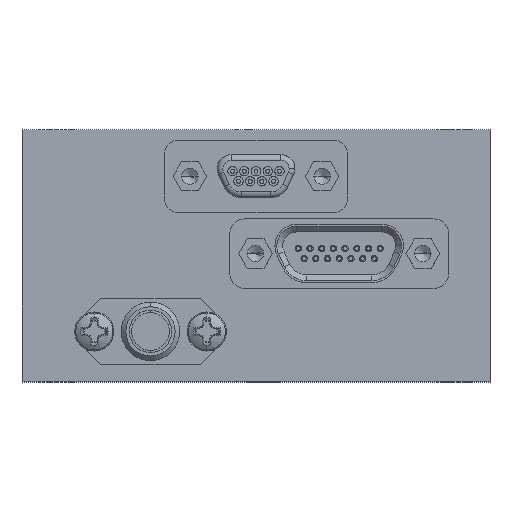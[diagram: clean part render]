
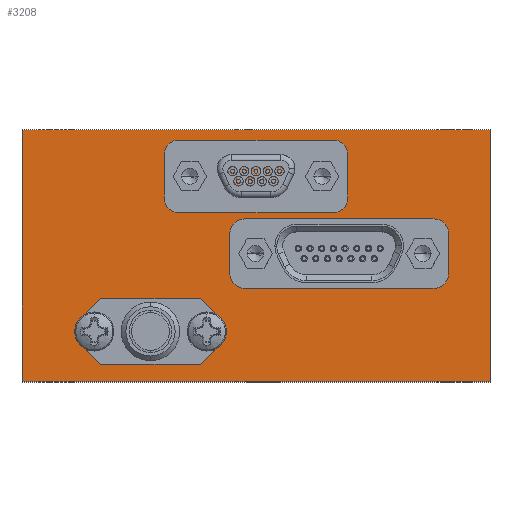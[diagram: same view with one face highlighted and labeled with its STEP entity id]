
A CAD part, top view. The second image highlights one B-rep face of the part: STEP entity #3208.
In plain terms, the highlighted planar face has unit normal (0, 0, 1).
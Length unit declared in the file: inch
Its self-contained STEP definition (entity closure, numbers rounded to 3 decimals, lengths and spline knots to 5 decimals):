
#7 = EDGE_LOOP ( 'NONE', ( #41210, #12051 ) ) ;
#163 = AXIS2_PLACEMENT_3D ( 'NONE', #24295, #26897, #39761 ) ;
#209 = AXIS2_PLACEMENT_3D ( 'NONE', #7731, #21181, #24347 ) ;
#387 = DIRECTION ( 'NONE',  ( 0., -1., 0. ) ) ;
#793 = FACE_BOUND ( 'NONE', #37071, .T. ) ;
#1322 = ORIENTED_EDGE ( 'NONE', *, *, #5940, .F. ) ;
#1712 = CARTESIAN_POINT ( 'NONE',  ( 0.99819, 0.54495, 0. ) ) ;
#1945 = CARTESIAN_POINT ( 'NONE',  ( 0.7175, 0.875, 0. ) ) ;
#2969 = LINE ( 'NONE', #22511, #15176 ) ;
#3208 = ADVANCED_FACE ( 'NONE', ( #10711, #793, #13642, #26694, #5341, #37410 ), #7105, .F. ) ;
#3358 = CIRCLE ( 'NONE', #22139, 0.01625 ) ;
#3431 = ORIENTED_EDGE ( 'NONE', *, *, #21184, .F. ) ;
#3465 = ORIENTED_EDGE ( 'NONE', *, *, #22410, .F. ) ;
#4380 = AXIS2_PLACEMENT_3D ( 'NONE', #10506, #22888, #13644 ) ;
#5341 = FACE_BOUND ( 'NONE', #5955, .T. ) ;
#5447 = DIRECTION ( 'NONE',  ( 1., 0., 0. ) ) ;
#5876 = DIRECTION ( 'NONE',  ( 0., -1., 0. ) ) ;
#5940 = EDGE_CURVE ( 'NONE', #23323, #17807, #24182, .T. ) ;
#5955 = EDGE_LOOP ( 'NONE', ( #33423, #26280 ) ) ;
#6048 = CARTESIAN_POINT ( 'NONE',  ( 2., 0., 0. ) ) ;
#6923 = CIRCLE ( 'NONE', #209, 0.01625 ) ;
#7105 = PLANE ( 'NONE',  #163 ) ;
#7174 = DIRECTION ( 'NONE',  ( 0., 0., 1. ) ) ;
#7220 = CARTESIAN_POINT ( 'NONE',  ( 0.549, 0.19595, 0. ) ) ;
#7685 = CARTESIAN_POINT ( 'NONE',  ( 1.71319, 0.54495, 0. ) ) ;
#7731 = CARTESIAN_POINT ( 'NONE',  ( 1.71319, 0.54495, 0. ) ) ;
#7772 = CARTESIAN_POINT ( 'NONE',  ( 0.7175, 0.85875, 0. ) ) ;
#7944 = EDGE_LOOP ( 'NONE', ( #23206, #37169 ) ) ;
#8330 = EDGE_CURVE ( 'NONE', #38335, #21244, #13426, .T. ) ;
#8679 = VECTOR ( 'NONE', #9498, 39.37008 ) ;
#8889 = EDGE_CURVE ( 'NONE', #16144, #29124, #3358, .T. ) ;
#9193 = DIRECTION ( 'NONE',  ( 0., -1., 0. ) ) ;
#9325 = EDGE_CURVE ( 'NONE', #35314, #25202, #38363, .T. ) ;
#9498 = DIRECTION ( 'NONE',  ( 1., 0., 0. ) ) ;
#9808 = VERTEX_POINT ( 'NONE', #23807 ) ;
#9814 = CARTESIAN_POINT ( 'NONE',  ( 1.2825, 0.875, 0. ) ) ;
#10021 = CARTESIAN_POINT ( 'NONE',  ( 2., 1.075, 0. ) ) ;
#10329 = LINE ( 'NONE', #26087, #8679 ) ;
#10506 = CARTESIAN_POINT ( 'NONE',  ( 0.7175, 0.875, 0. ) ) ;
#10711 = FACE_BOUND ( 'NONE', #7944, .T. ) ;
#11466 = CARTESIAN_POINT ( 'NONE',  ( 1.2825, 0.89125, 0. ) ) ;
#11981 = LINE ( 'NONE', #40822, #18118 ) ;
#12051 = ORIENTED_EDGE ( 'NONE', *, *, #9325, .F. ) ;
#12073 = AXIS2_PLACEMENT_3D ( 'NONE', #31321, #31522, #28128 ) ;
#12856 = EDGE_CURVE ( 'NONE', #32902, #25753, #2969, .T. ) ;
#13087 = CIRCLE ( 'NONE', #4380, 0.01625 ) ;
#13426 = CIRCLE ( 'NONE', #20114, 0.01625 ) ;
#13642 = FACE_BOUND ( 'NONE', #28776, .T. ) ;
#13644 = DIRECTION ( 'NONE',  ( 0., -1., 0. ) ) ;
#13767 = EDGE_LOOP ( 'NONE', ( #27729, #39457, #3431, #37244 ) ) ;
#14769 = VERTEX_POINT ( 'NONE', #6048 ) ;
#14811 = EDGE_CURVE ( 'NONE', #29124, #16144, #23120, .T. ) ;
#15176 = VECTOR ( 'NONE', #5876, 39.37008 ) ;
#16144 = VERTEX_POINT ( 'NONE', #7220 ) ;
#16190 = DIRECTION ( 'NONE',  ( 0., 0., 1. ) ) ;
#16466 = CARTESIAN_POINT ( 'NONE',  ( 1.2825, 0.85875, 0. ) ) ;
#16650 = AXIS2_PLACEMENT_3D ( 'NONE', #1712, #7174, #26974 ) ;
#17375 = DIRECTION ( 'NONE',  ( 0., -1., 0. ) ) ;
#17807 = VERTEX_POINT ( 'NONE', #39585 ) ;
#18118 = VECTOR ( 'NONE', #25001, 39.37008 ) ;
#18569 = ORIENTED_EDGE ( 'NONE', *, *, #34555, .F. ) ;
#18829 = VECTOR ( 'NONE', #5447, 39.37008 ) ;
#18974 = ORIENTED_EDGE ( 'NONE', *, *, #32954, .F. ) ;
#20114 = AXIS2_PLACEMENT_3D ( 'NONE', #1945, #20873, #23833 ) ;
#20630 = CARTESIAN_POINT ( 'NONE',  ( 0.7175, 0.89125, 0. ) ) ;
#20873 = DIRECTION ( 'NONE',  ( 0., 0., 1. ) ) ;
#20975 = EDGE_CURVE ( 'NONE', #25202, #35314, #39022, .T. ) ;
#21181 = DIRECTION ( 'NONE',  ( 0., 0., 1. ) ) ;
#21184 = EDGE_CURVE ( 'NONE', #32902, #26693, #10329, .T. ) ;
#21244 = VERTEX_POINT ( 'NONE', #7772 ) ;
#21510 = AXIS2_PLACEMENT_3D ( 'NONE', #22186, #41582, #28935 ) ;
#21858 = DIRECTION ( 'NONE',  ( 0., 0., 1. ) ) ;
#22139 = AXIS2_PLACEMENT_3D ( 'NONE', #27989, #21858, #41248 ) ;
#22186 = CARTESIAN_POINT ( 'NONE',  ( 1.2825, 0.875, 0. ) ) ;
#22410 = EDGE_CURVE ( 'NONE', #17807, #23323, #6923, .T. ) ;
#22511 = CARTESIAN_POINT ( 'NONE',  ( 0., 1.075, 0. ) ) ;
#22629 = DIRECTION ( 'NONE',  ( 0., 0., 1. ) ) ;
#22888 = DIRECTION ( 'NONE',  ( 0., 0., 1. ) ) ;
#23120 = CIRCLE ( 'NONE', #33933, 0.01625 ) ;
#23206 = ORIENTED_EDGE ( 'NONE', *, *, #8889, .F. ) ;
#23323 = VERTEX_POINT ( 'NONE', #41413 ) ;
#23807 = CARTESIAN_POINT ( 'NONE',  ( 0.99819, 0.5287, 0. ) ) ;
#23833 = DIRECTION ( 'NONE',  ( 0., -1., 0. ) ) ;
#24182 = CIRCLE ( 'NONE', #36358, 0.01625 ) ;
#24295 = CARTESIAN_POINT ( 'NONE',  ( 0., 1.075, 0. ) ) ;
#24347 = DIRECTION ( 'NONE',  ( 0., -1., 0. ) ) ;
#24847 = AXIS2_PLACEMENT_3D ( 'NONE', #9814, #22629, #9193 ) ;
#25001 = DIRECTION ( 'NONE',  ( 0., -1., 0. ) ) ;
#25202 = VERTEX_POINT ( 'NONE', #16466 ) ;
#25753 = VERTEX_POINT ( 'NONE', #34048 ) ;
#26087 = CARTESIAN_POINT ( 'NONE',  ( 0., 1.075, 0. ) ) ;
#26280 = ORIENTED_EDGE ( 'NONE', *, *, #8330, .F. ) ;
#26537 = CARTESIAN_POINT ( 'NONE',  ( 0.99819, 0.5612, 0. ) ) ;
#26693 = VERTEX_POINT ( 'NONE', #10021 ) ;
#26694 = FACE_BOUND ( 'NONE', #7, .T. ) ;
#26897 = DIRECTION ( 'NONE',  ( 0., 0., -1. ) ) ;
#26974 = DIRECTION ( 'NONE',  ( 0., -1., 0. ) ) ;
#27189 = EDGE_CURVE ( 'NONE', #21244, #38335, #13087, .T. ) ;
#27729 = ORIENTED_EDGE ( 'NONE', *, *, #37498, .T. ) ;
#27989 = CARTESIAN_POINT ( 'NONE',  ( 0.549, 0.2122, 0. ) ) ;
#28128 = DIRECTION ( 'NONE',  ( 0., -1., 0. ) ) ;
#28759 = CIRCLE ( 'NONE', #16650, 0.01625 ) ;
#28776 = EDGE_LOOP ( 'NONE', ( #18569, #18974 ) ) ;
#28935 = DIRECTION ( 'NONE',  ( 0., -1., 0. ) ) ;
#29124 = VERTEX_POINT ( 'NONE', #31384 ) ;
#30484 = CARTESIAN_POINT ( 'NONE',  ( 0., 1.075, 0. ) ) ;
#30978 = LINE ( 'NONE', #34345, #18829 ) ;
#31321 = CARTESIAN_POINT ( 'NONE',  ( 0.99819, 0.54495, 0. ) ) ;
#31384 = CARTESIAN_POINT ( 'NONE',  ( 0.549, 0.22845, 0. ) ) ;
#31522 = DIRECTION ( 'NONE',  ( 0., 0., 1. ) ) ;
#32408 = CARTESIAN_POINT ( 'NONE',  ( 0.549, 0.2122, 0. ) ) ;
#32902 = VERTEX_POINT ( 'NONE', #30484 ) ;
#32954 = EDGE_CURVE ( 'NONE', #34270, #9808, #36339, .T. ) ;
#32996 = DIRECTION ( 'NONE',  ( 0., 0., 1. ) ) ;
#33423 = ORIENTED_EDGE ( 'NONE', *, *, #27189, .F. ) ;
#33933 = AXIS2_PLACEMENT_3D ( 'NONE', #32408, #16190, #387 ) ;
#34048 = CARTESIAN_POINT ( 'NONE',  ( 0., 0., 0. ) ) ;
#34270 = VERTEX_POINT ( 'NONE', #26537 ) ;
#34345 = CARTESIAN_POINT ( 'NONE',  ( 0., 0., 0. ) ) ;
#34555 = EDGE_CURVE ( 'NONE', #9808, #34270, #28759, .T. ) ;
#35314 = VERTEX_POINT ( 'NONE', #11466 ) ;
#36339 = CIRCLE ( 'NONE', #12073, 0.01625 ) ;
#36358 = AXIS2_PLACEMENT_3D ( 'NONE', #7685, #32996, #17375 ) ;
#36950 = EDGE_CURVE ( 'NONE', #26693, #14769, #11981, .T. ) ;
#37071 = EDGE_LOOP ( 'NONE', ( #3465, #1322 ) ) ;
#37169 = ORIENTED_EDGE ( 'NONE', *, *, #14811, .F. ) ;
#37244 = ORIENTED_EDGE ( 'NONE', *, *, #12856, .T. ) ;
#37410 = FACE_OUTER_BOUND ( 'NONE', #13767, .T. ) ;
#37498 = EDGE_CURVE ( 'NONE', #25753, #14769, #30978, .T. ) ;
#38335 = VERTEX_POINT ( 'NONE', #20630 ) ;
#38363 = CIRCLE ( 'NONE', #21510, 0.01625 ) ;
#39022 = CIRCLE ( 'NONE', #24847, 0.01625 ) ;
#39457 = ORIENTED_EDGE ( 'NONE', *, *, #36950, .F. ) ;
#39585 = CARTESIAN_POINT ( 'NONE',  ( 1.71319, 0.5287, 0. ) ) ;
#39761 = DIRECTION ( 'NONE',  ( 0., 1., 0. ) ) ;
#40822 = CARTESIAN_POINT ( 'NONE',  ( 2., 1.075, 0. ) ) ;
#41210 = ORIENTED_EDGE ( 'NONE', *, *, #20975, .F. ) ;
#41248 = DIRECTION ( 'NONE',  ( 0., -1., 0. ) ) ;
#41413 = CARTESIAN_POINT ( 'NONE',  ( 1.71319, 0.5612, 0. ) ) ;
#41582 = DIRECTION ( 'NONE',  ( 0., 0., 1. ) ) ;
